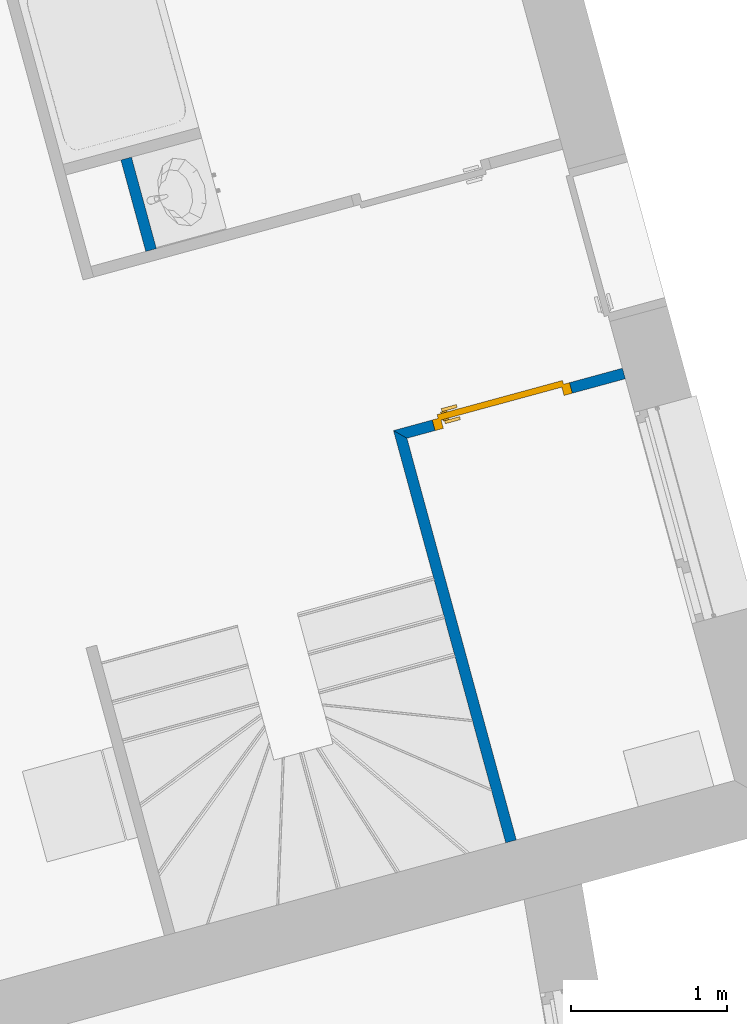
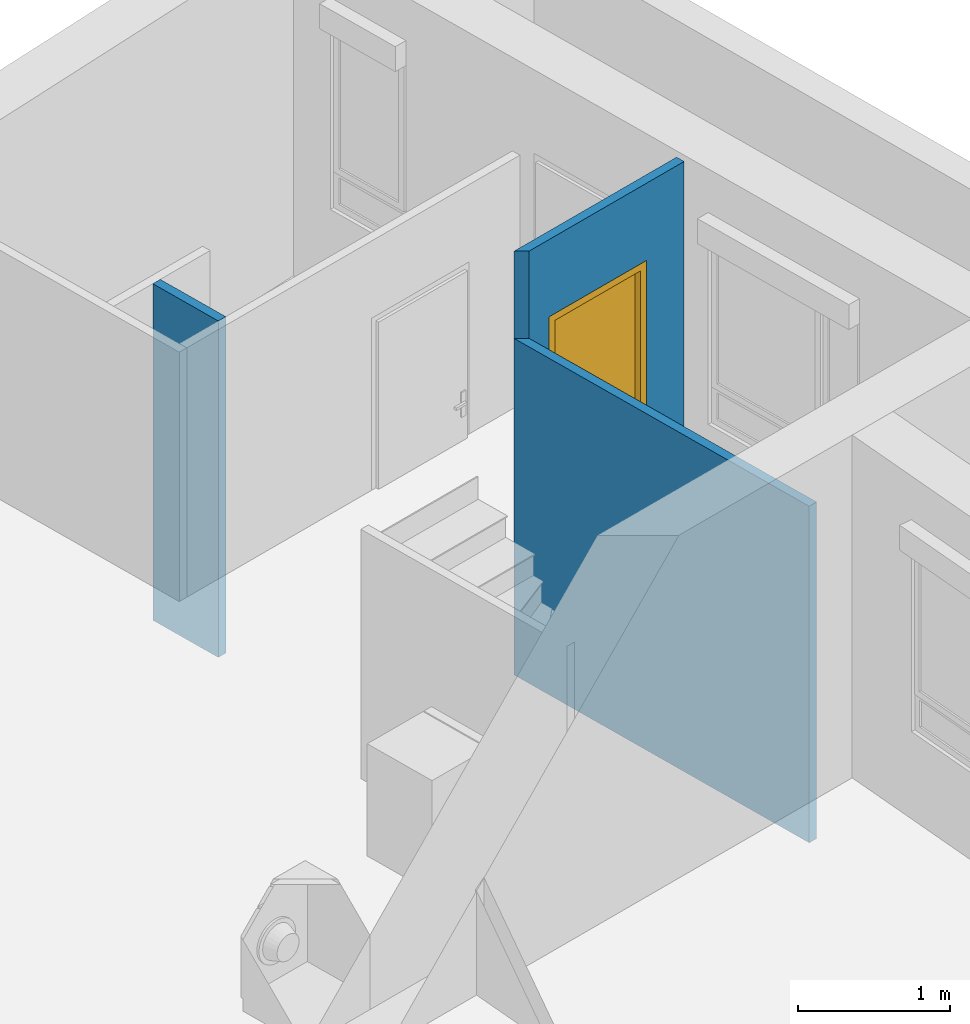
# One storey, part 95 of 195: 3 walls, 1 door, 1 opening.
"""IFC2X3 building model written with IfcOpenShell, lengths in metres."""

from ifc_helpers import new_model, entity, si_unit, converted_unit, derived_unit, money_unit, direction, frame, origin_with_axes, origin_2d_with_axis, place, context, subcontext, project, spatial, polyline, rectangle, outline, extrude, faceted_brep, source, transform, mapped, material, layer, layer_set, layer_usage, type_object, element, fill, save


model = new_model("IFC2X3")

# Units and contexts
model_context = context("Model", 3, precision=1e-05, world=origin_with_axes(), true_north=direction((0.0, 1.0)))
body_context = subcontext(model_context, "Body", "Model", "MODEL_VIEW")
ifc_project = project(units=[si_unit("LENGTHUNIT", "METRE"), si_unit("AREAUNIT", "SQUARE_METRE"), si_unit("VOLUMEUNIT", "CUBIC_METRE"), converted_unit("PLANEANGLEUNIT", "DEGREE", entity("IfcPlaneAngleMeasure", 0.0174532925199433), si_unit("PLANEANGLEUNIT", "RADIAN"), dimensions=[0, 0, 0, 0, 0, 0, 0]), money_unit("CHF"), converted_unit("TIMEUNIT", "Year", entity("IfcTimeMeasure", 31557600.0), si_unit("TIMEUNIT", "SECOND"), dimensions=[0, 0, 1, 0, 0, 0, 0]), si_unit("MASSUNIT", "GRAM", prefix="KILO"), si_unit("THERMODYNAMICTEMPERATUREUNIT", "DEGREE_CELSIUS"), si_unit("LUMINOUSINTENSITYUNIT", "LUMEN"), si_unit("ENERGYUNIT", "JOULE", prefix="MEGA"), derived_unit("THERMALCONDUCTANCEUNIT", [(si_unit("POWERUNIT", "WATT"), 1), (si_unit("LENGTHUNIT", "METRE"), -1), (si_unit("THERMODYNAMICTEMPERATUREUNIT", "KELVIN"), -1)]), derived_unit("SPECIFICHEATCAPACITYUNIT", [(si_unit("ENERGYUNIT", "JOULE"), 1), (si_unit("MASSUNIT", "GRAM", prefix="KILO"), -1), (si_unit("THERMODYNAMICTEMPERATUREUNIT", "KELVIN"), -1)]), derived_unit("MASSDENSITYUNIT", [(si_unit("MASSUNIT", "GRAM", prefix="KILO"), 1), (si_unit("VOLUMEUNIT", "CUBIC_METRE"), -1)])], contexts=[model_context])

# Site, building, storey
site_placement = place(None, origin_with_axes())
site = spatial("IfcSite", under=ifc_project, at=site_placement, Name="Site", CompositionType="ELEMENT")
building_placement = place(site_placement, origin_with_axes())
building = spatial("IfcBuilding", under=site, at=building_placement, Name="Bâtiment", CompositionType="ELEMENT")
storey_placement = place(building_placement, origin_with_axes())
storey = spatial("IfcBuildingStorey", under=building, at=storey_placement, Name="rdc", CompositionType="ELEMENT", Elevation=0.0)

# Walls
ifc_material = material(Name="Hachure solide 268963992")
ifc_layer = layer(ifc_material, 0.07, ventilated="UNKNOWN")
ifc_layer_set = layer_set([ifc_layer], Name="Cloison 70 0826278243")
ifc_layer_usage_1 = layer_usage(ifc_layer_set, "AXIS2", "POSITIVE", 0.0)
wall_type = type_object("IfcWallType", Name="Cloison 70 0826278243 70", PredefinedType="NOTDEFINED")
wall_1_placement = place(storey_placement, frame((9584.548287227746, -1016.957211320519, 57.0), z_axis=(0.0, 0.0, 1.0), x_axis=(-0.2627340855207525, 0.9648682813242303, 0.0)))
element("IfcWallStandardCase", 1, at=wall_1_placement, inside=storey, type_object=wall_type, material=ifc_layer_usage_1, Name="Mur-149", context=body_context, shape_type="SweptSolid", body=[
    extrude(outline(polyline([(6.465938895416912e-10, 0.0), (0.6062088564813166, 0.0), (0.6062088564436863, 0.06999999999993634), (6.25618667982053e-10, 0.06999999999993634), (6.465938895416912e-10, 0.0)])), origin_with_axes(), (0.0, 0.0, 1.0), 2.7),
])
ifc_layer_usage_2 = layer_usage(ifc_layer_set, "AXIS2", "POSITIVE", 0.0)
wall_2_placement = place(storey_placement, frame((9586.064434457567, -1018.120453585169, 57.0), z_axis=(0.0, 0.0, 1.0), x_axis=(0.2627340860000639, -0.9648682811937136, 0.0)))
element("IfcWallStandardCase", 2, at=wall_2_placement, inside=storey, type_object=wall_type, material=ifc_layer_usage_2, Name="Mur-149", context=body_context, shape_type="SweptSolid", body=[
    extrude(outline(polyline([(0.0, 0.0), (2.731934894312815, 0.0), (2.731934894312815, 0.06999999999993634), (0.070000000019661, 0.06999999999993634), (0.0, 0.0)])), origin_with_axes(), (0.0, 0.0, 1.0), 2.7),
])

# Wall, opening, door
ifc_layer_usage_3 = layer_usage(ifc_layer_set, "AXIS2", "NEGATIVE", 0.0)
wall_3_placement = place(storey_placement, frame((9586.064434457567, -1018.120453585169, 57.7), z_axis=(0.0, 0.0, 1.0), x_axis=(0.9648682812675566, 0.2627340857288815, 0.0)))
wall_3 = element("IfcWallStandardCase", 3, at=wall_3_placement, inside=storey, type_object=wall_type, material=ifc_layer_usage_3, Name="Mur-149", context=body_context, shape_type="SweptSolid", body=[
    extrude(outline(polyline([(0.07000000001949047, -0.06999999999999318), (1.517035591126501, -0.06999999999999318), (1.517035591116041, 0.0), (0.0, 0.0), (0.07000000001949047, -0.06999999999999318)])), origin_with_axes(), (0.0, 0.0, 1.0), 2.7),
])
opening_placement = place(wall_3_placement, frame((0.7111589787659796, 0.0, 0.0), z_axis=(0.0, 0.0, 1.0), x_axis=(1.0, 0.0, 0.0)))
opening = element("IfcOpeningElement", 4, at=opening_placement, cuts=wall_3, Name="Por-301", context=body_context, shape_type="SweptSolid", body=[
    extrude(rectangle(XDim=0.9099999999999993, YDim=2.079999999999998, at=origin_2d_with_axis()), frame((0.0, -0.06999999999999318, 1.039999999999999), z_axis=(0.0, 1.0, 0.0), x_axis=(1.0, 0.0, 0.0)), (0.0, 0.0, 1.0), 0.14),
])
door_style = type_object("IfcDoorStyle", Name="Porte_1v", ConstructionType="NOTDEFINED", OperationType="NOTDEFINED", ParameterTakesPrecedence=False, Sizeable=False)
shared_shape = source(origin_with_axes(), body_context, "Body", "Brep", [
    faceted_brep([(0.455, 0.0, 0.0), (0.415, 0.0, 0.0), (0.415, 0.0, 2.04), (-0.415, 0.0, 2.04), (-0.415, 0.0, 0.0), (-0.455, 0.0, 0.0), (-0.455, 0.0, 2.08), (0.455, 0.0, 2.08), (0.455, -0.07, 0.0), (0.4, -0.07, 0.0), (0.4, -0.015, 0.0), (0.415, -0.015, 0.0), (0.415, -0.015, 2.04), (-0.415, -0.015, 2.04), (-0.415, -0.015, 0.0), (-0.4, -0.015, 0.0), (-0.4, -0.07, 0.0), (-0.455, -0.07, 0.0), (-0.455, -0.07, 2.08), (0.455, -0.07, 2.08), (-0.4, -0.07, 2.025), (0.4, -0.07, 2.025), (0.4, -0.015, 2.025), (-0.4, -0.015, 2.025)], [[[0, 1, 2, 3, 4, 5, 6, 7]], [[0, 8, 9, 10, 11, 1]], [[1, 11, 12, 2]], [[2, 12, 13, 3]], [[3, 13, 14, 4]], [[5, 4, 14, 15, 16, 17]], [[18, 6, 5, 17]], [[19, 7, 6, 18]], [[8, 0, 7, 19]], [[9, 8, 19, 18, 17, 16, 20, 21]], [[10, 9, 21, 22]], [[11, 10, 22, 23, 15, 14, 13, 12]], [[23, 20, 16, 15]], [[22, 21, 20, 23]]]),
    faceted_brep([(-0.35, -0.015, 0.9), (-0.39, -0.015, 0.9), (-0.39, -0.015, 1.1), (-0.35, -0.015, 1.1), (-0.35, -0.025, 0.9), (-0.39, -0.025, 0.9), (-0.39, -0.025, 1.1), (-0.35, -0.025, 1.1)], [[[0, 1, 2, 3]], [[1, 0, 4, 5]], [[2, 1, 5, 6]], [[3, 2, 6, 7]], [[0, 3, 7, 4]], [[5, 4, 7, 6]]]),
    faceted_brep([(-0.28, -0.025, 1.0), (-0.38, -0.025, 1.0), (-0.38, -0.025, 1.02), (-0.28, -0.025, 1.02), (-0.28, -0.045, 1.0), (-0.38, -0.045, 1.0), (-0.38, -0.045, 1.02), (-0.28, -0.045, 1.02)], [[[0, 1, 2, 3]], [[1, 0, 4, 5]], [[2, 1, 5, 6]], [[3, 2, 6, 7]], [[0, 3, 7, 4]], [[5, 4, 7, 6]]]),
    faceted_brep([(-0.35, 0.035, 0.9), (-0.39, 0.035, 0.9), (-0.39, 0.035, 1.1), (-0.35, 0.035, 1.1), (-0.35, 0.025, 0.9), (-0.39, 0.025, 0.9), (-0.39, 0.025, 1.1), (-0.35, 0.025, 1.1)], [[[0, 1, 2, 3]], [[1, 0, 4, 5]], [[2, 1, 5, 6]], [[3, 2, 6, 7]], [[0, 3, 7, 4]], [[5, 4, 7, 6]]]),
    faceted_brep([(-0.28, 0.05500000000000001, 1.0), (-0.38, 0.05500000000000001, 1.0), (-0.38, 0.05500000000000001, 1.02), (-0.28, 0.05500000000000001, 1.02), (-0.28, 0.035, 1.0), (-0.38, 0.035, 1.0), (-0.38, 0.035, 1.02), (-0.28, 0.035, 1.02)], [[[0, 1, 2, 3]], [[1, 0, 4, 5]], [[2, 1, 5, 6]], [[3, 2, 6, 7]], [[0, 3, 7, 4]], [[5, 4, 7, 6]]]),
    faceted_brep([(-0.415, 0.025, 0.0), (0.415, 0.025, 0.0), (0.415, -0.015, 0.0), (-0.415, -0.015, 0.0), (-0.415, 0.025, 2.04), (0.415, 0.025, 2.04), (0.415, -0.015, 2.04), (-0.415, -0.015, 2.04)], [[[0, 1, 2, 3]], [[0, 4, 5, 1]], [[1, 5, 6, 2]], [[3, 2, 6, 7]], [[4, 0, 3, 7]], [[5, 4, 7, 6]]]),
])
door_placement = place(opening_placement, frame((-0.4149999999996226, 0.0, 0.0), z_axis=(0.0, 0.0, 1.0), x_axis=(1.0, 0.0, 0.0)))
door = element("IfcDoor", 5, at=door_placement, inside=storey, type_object=door_style, Name="Por-301", OverallHeight=2.04, OverallWidth=0.83, context=body_context, shape_type="MappedRepresentation", body=[
    mapped(shared_shape, transform((0.4149999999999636, 0.0, 0.0))),
])
fill(opening, door)

save(model, "model.ifc")
